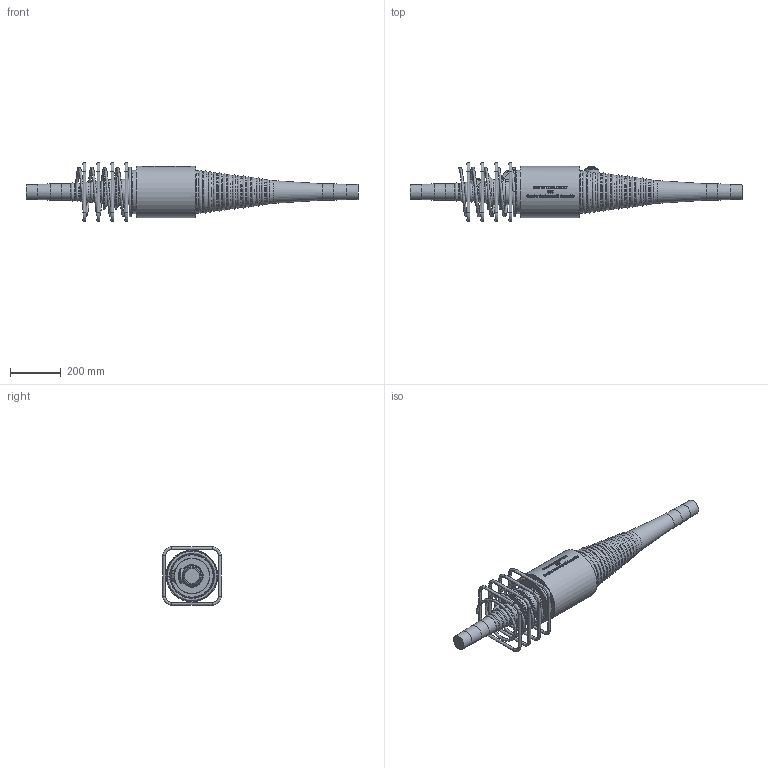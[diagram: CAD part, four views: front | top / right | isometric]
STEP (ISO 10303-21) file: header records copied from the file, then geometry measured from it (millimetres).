
FILE_DESCRIPTION(/* description */ (''),/* implementation_level */ '2;1');
FILE_NAME(/* name */ 'Z:\04 Publications\05 Give-out\BBR\6_3D_Models\BBR VT CONA CMI\BBR VT CONA CMI BT\00506\BBR VT CONA CMI BT 506_Coupler H Assembly_CS-34,28.stp',/* time_stamp */ '2017-05-04T16:25:17+02:00',/* author */ ('IP'),/* organization */ (''),/* preprocessor_version */ 'ST-DEVELOPER v16.1',/* originating_system */ 'Autodesk Inventor 2016',/* authorisation */ '');
FILE_SCHEMA (('AUTOMOTIVE_DESIGN { 1 0 10303 214 3 1 1 }'));
Length unit declared in the file: millimetre
Products named in the file (1): BBR VT CONA CMI BT 506_Coupler H Assembly_CS-34,28
Bounding box: 1303 x 230 x 230 mm (x, y, z)
Volume: 16321634.8 mm3; surface area: 759590.3 mm2
Topology: 6 solids, 6 shells, 935 faces, 2380 edges, 1512 vertices
Faces by surface type: bspline 381, plane 299, torus 106, cylinder 100, cone 25, sphere 24
Full cylindrical faces by diameter (mm): 12 x16, 34 x2, 57 x2, 59 x2, 64 x2, 133.801 x1, 139.387 x1, 170 x1, 203 x1
Entity records: 37132 total; most frequent: CARTESIAN_POINT 16978, ORIENTED_EDGE 4468, DIRECTION 3168, EDGE_CURVE 2234, VERTEX_POINT 1502, AXIS2_PLACEMENT_3D 1136, EDGE_LOOP 1134, FACE_OUTER_BOUND 935
